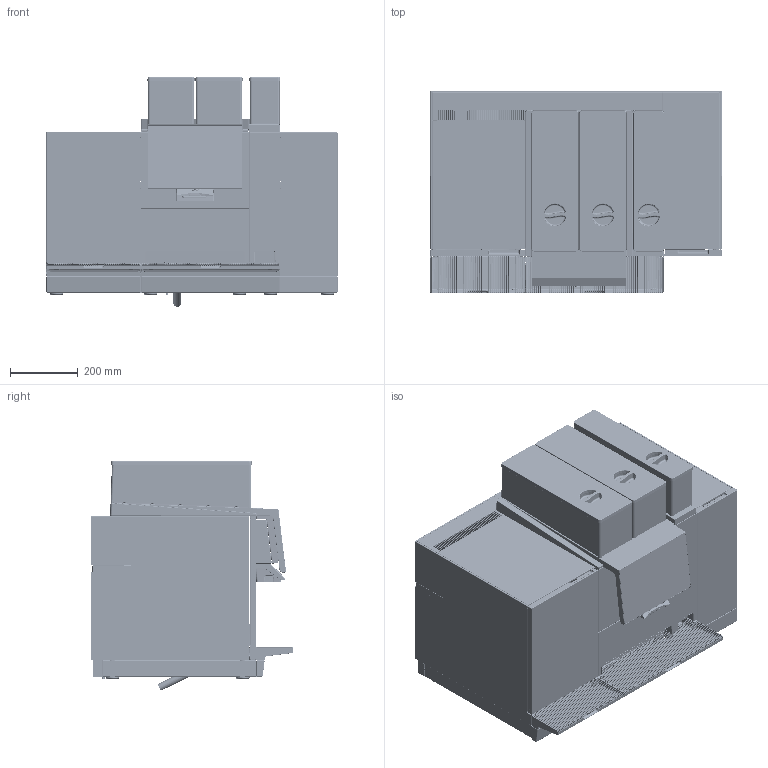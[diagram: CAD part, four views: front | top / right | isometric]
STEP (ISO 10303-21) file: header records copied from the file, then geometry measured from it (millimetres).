
FILE_DESCRIPTION(/* description */ ('Unknown'),/* implementation_level */ '2;1');
FILE_NAME(/* name */ 'BW4_CTM_P_F_RL_134133_mitSockel',/* time_stamp */ '2019-08-30T16:50:45+02:00',/* author */ ('Unknown'),/* organization */ ('Unknown'),/* preprocessor_version */ 'ST-DEVELOPER v16.7',/* originating_system */ 'DEX',/* authorisation */ $);
FILE_SCHEMA (('AUTOMOTIVE_DESIGN {1 0 10303 214 3 1 1}'));
Products named in the file (1): BW4_CTM_P_F_RL_134133
Bounding box: 863.32 x 599.9 x 679.49 mm (x, y, z)
Surface area: 5617645.2 mm2 (no closed solid volume)
Topology: 0 solids, 795 shells, 3320 faces, 22351 edges, 19154 vertices
Faces by surface type: plane 1440, cylinder 1107, torus 360, bspline 219, cone 163, sphere 31
Full cylindrical faces by diameter (mm): 2 x5, 2.5 x198, 3.2 x3, 4 x7, 4.2 x12, 4.5 x1, 4.8 x1, 5.2 x14, 5.4 x2, 6 x1, 6.2 x1, 6.3 x1, 7.12 x1, 13 x1, 14 x1, 14.5 x1, 16 x2, 16.02 x1, 16.682 x1, 17.2 x2, 21.2 x1, 21.7 x1, 22.65 x1, 23.15 x1, 24 x2, 29.5 x1, 30 x10
Entity records: 237546 total; most frequent: CARTESIAN_POINT 70010, DIRECTION 31957, ORIENTED_EDGE 24606, EDGE_CURVE 21206, VERTEX_POINT 18796, LINE 11453, VECTOR 11453, AXIS2_PLACEMENT_3D 10252
